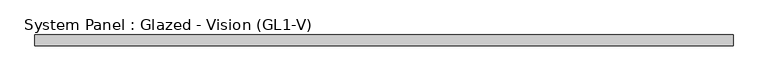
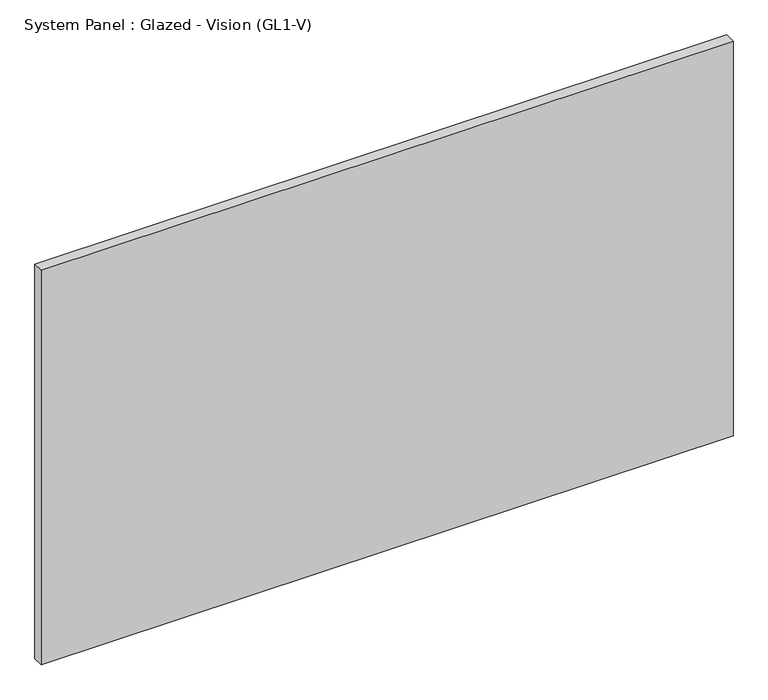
"""IFC4 building model written with IfcOpenShell, lengths in millimetres: plate geometry, System Panel : Glazed - Vision (GL1-V)."""

from ifc_helpers import new_model, si_unit, origin, origin_with_axes, place, context, project, spatial, polyline, outline, extrude, source, transform, mapped, element, save


def system_panel_glazed_vision_gl1_v_89c8d601(model_context):
    return source(origin(), model_context, "Body", "SweptSolid", [
        extrude(outline(polyline([(815.975, -25.4), (-815.975, -25.4), (-815.975, 0.0), (815.975, 0.0), (815.975, -25.4)])), origin_with_axes(), (0.0, 0.0, 1.0), 984.25),
    ])


if __name__ == "__main__":
    model = new_model("IFC4")
    model_context = context("Model", 3, world=origin())
    ifc_project = project(units=[si_unit("LENGTHUNIT", "METRE", prefix="MILLI")], contexts=[model_context])
    site = spatial("IfcSite", under=ifc_project)
    building = spatial("IfcBuilding", under=site)
    placement = place(None, origin())
    system_panel_glazed_vision_gl1_v_shape = system_panel_glazed_vision_gl1_v_89c8d601(model_context)
    element("IfcPlate", 1, ObjectType="System Panel : Glazed - Vision (GL1-V)", at=placement, inside=building, context=model_context, shape_type="MappedRepresentation", body=[
        mapped(system_panel_glazed_vision_gl1_v_shape, transform((0.0, 0.0, 0.0), x_axis=(1.0, 0.0, 0.0), y_axis=(0.0, 1.0, 0.0), z_axis=(0.0, 0.0, 1.0))),
    ])
    save(model, "model.ifc")
